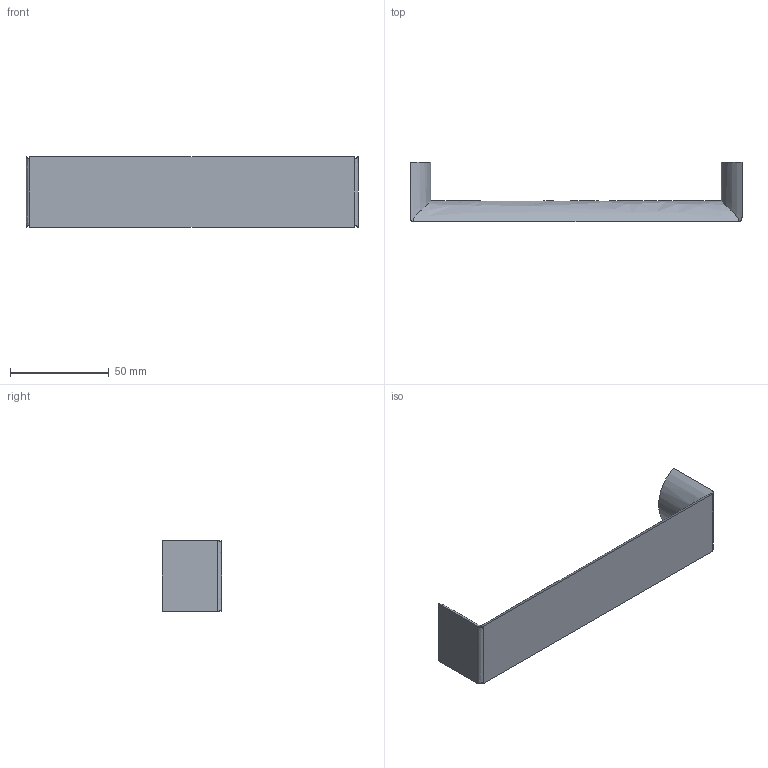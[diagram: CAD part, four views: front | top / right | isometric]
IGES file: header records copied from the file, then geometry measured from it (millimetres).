
Start section: Data from Parasolid IGES Translator 15.0.47, Copyright(c) 2006 Siemens P LM Software. All Rights Reserved.
Global section: file name: 9113509.igs; native system:  By UGS Corp.; preprocessor: XPlus GENERIC/IGES 3.0; author: Noname; organization: Noname; date: 20140122.104438; units: millimetre
Bounding box: 168 x 30 x 35.57 mm (x, y, z)
Surface area: 17466 mm2 (no closed solid volume)
Topology: 0 solids, 0 shells, 18 faces, 84 edges, 82 vertices
Faces by surface type: extrusion 11, revolution 7
